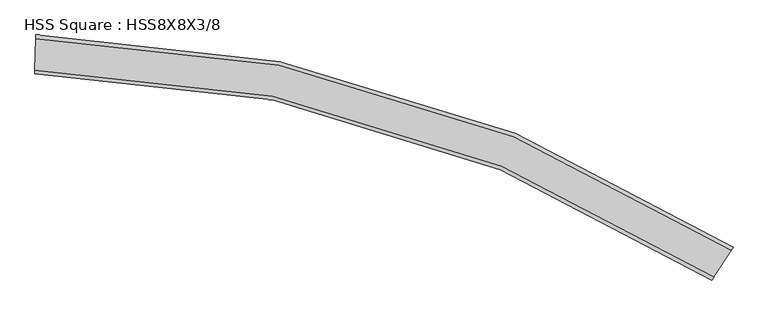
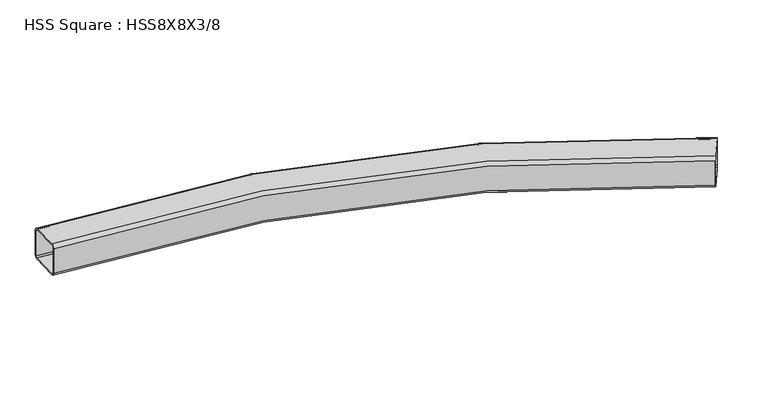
"""IFC4 building model written with IfcOpenShell, lengths in millimetres: beam geometry, HSS Square : HSS8X8X3/8."""

from ifc_helpers import new_model, si_unit, point, frame, origin, place, context, project, spatial, polyline, circle_curve, ellipse_curve, trimmed, source, transform, mapped, element, save
from ifc_brep_helpers import plane_surface, cylinder_surface, revolved_surface, advanced_brep


def hss_square_hss8x8x3_8_df46a162(model_context):
    return source(origin(), model_context, "Body", "AdvancedBrep", [
        advanced_brep(
        [(3755.6968207, -1007.7773238, 82.55), (3745.3457959, -1023.7697841, 101.6), (3655.6369146, -1162.3711066, 101.6), (3645.2858898, -1178.3635669, 82.55), (3645.2858898, -1178.3635669, -82.55), (3655.6369146, -1162.3711066, -101.6), (3745.3457959, -1023.7697841, -101.6), (3755.6968207, -1007.7773238, -82.55), (3655.6369146, -1162.3711066, 92.075), (3745.3457959, -1023.7697841, 92.075), (3750.5213083, -1015.7735539, 82.55), (3750.5213083, -1015.7735539, -82.55), (3745.3457959, -1023.7697841, -92.075), (3655.6369146, -1162.3711066, -92.075), (3650.4614022, -1170.3673368, -82.55), (3650.4614022, -1170.3673368, 82.55), (115.9920812, 100.6266812, 82.55), (115.9920812, 100.6266812, -82.55), (115.672397, 81.5793638, -101.6), (112.9018007, -83.4973875, -101.6), (112.5821165, -102.5447049, -82.55), (112.5821165, -102.5447049, 82.55), (112.9018007, -83.4973875, 101.6), (115.672397, 81.5793638, 101.6), (112.9018007, -83.4973875, 92.075), (112.7419586, -93.0210462, 82.55), (112.7419586, -93.0210462, -82.55), (112.9018007, -83.4973875, -92.075), (115.672397, 81.5793638, -92.075), (115.8322391, 91.1030225, -82.55), (115.8322391, 91.1030225, 82.55), (115.672397, 81.5793638, 92.075)],
        [
            (0, 1, circle_curve(frame((3745.3457959, -1023.7697841, 82.55), z_axis=(0.839499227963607, -0.5433608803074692, 0.0), x_axis=(-0.5433608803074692, -0.839499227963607, 0.0)), 19.05)),
            (1, 2),
            (2, 3, circle_curve(frame((3655.6369146, -1162.3711066, 82.55), z_axis=(0.8394992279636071, -0.5433608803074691, 0.0), x_axis=(-0.5433608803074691, -0.8394992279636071, 0.0)), 19.05)),
            (3, 4),
            (4, 5, circle_curve(frame((3655.6369146, -1162.3711066, -82.55), z_axis=(0.8394992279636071, -0.5433608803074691, 0.0), x_axis=(-0.5433608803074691, -0.8394992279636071, 0.0)), 19.05)),
            (5, 6),
            (6, 7, circle_curve(frame((3745.3457959, -1023.7697841, -82.55), z_axis=(0.839499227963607, -0.5433608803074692, 0.0), x_axis=(-0.5433608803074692, -0.839499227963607, 0.0)), 19.05)),
            (7, 0),
            (8, 9),
            (9, 10, circle_curve(frame((3745.3457959, -1023.7697841, 82.55), z_axis=(-0.8394992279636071, 0.5433608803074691, 0.0), x_axis=(-0.5433608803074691, -0.8394992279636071, 0.0)), 9.525)),
            (10, 11),
            (11, 12, circle_curve(frame((3745.3457959, -1023.7697841, -82.55), z_axis=(-0.8394992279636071, 0.5433608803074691, 0.0), x_axis=(-0.5433608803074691, -0.8394992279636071, 0.0)), 9.525)),
            (12, 13),
            (13, 14, circle_curve(frame((3655.6369146, -1162.3711066, -82.55), z_axis=(-0.8394992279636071, 0.5433608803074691, 0.0), x_axis=(-0.5433608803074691, -0.8394992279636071, 0.0)), 9.525)),
            (14, 15),
            (15, 8, circle_curve(frame((3655.6369146, -1162.3711066, 82.55), z_axis=(-0.8394992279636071, 0.5433608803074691, 0.0), x_axis=(-0.5433608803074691, -0.8394992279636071, 0.0)), 9.525)),
            (16, 17),
            (17, 18, circle_curve(frame((115.672397, 81.5793638, -82.55), z_axis=(-0.9998591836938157, 0.016781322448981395, 0.0), x_axis=(-0.016781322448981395, -0.9998591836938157, 0.0)), 19.05)),
            (18, 19),
            (19, 20, circle_curve(frame((112.9018007, -83.4973875, -82.55), z_axis=(-0.9998591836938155, 0.016781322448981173, 0.0), x_axis=(-0.016781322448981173, -0.9998591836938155, 0.0)), 19.05)),
            (20, 21),
            (21, 22, circle_curve(frame((112.9018007, -83.4973875, 82.55), z_axis=(-0.9998591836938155, 0.016781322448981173, 0.0), x_axis=(-0.016781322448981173, -0.9998591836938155, 0.0)), 19.05)),
            (22, 23),
            (23, 16, circle_curve(frame((115.672397, 81.5793638, 82.55), z_axis=(-0.9998591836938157, 0.016781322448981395, 0.0), x_axis=(-0.016781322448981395, -0.9998591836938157, 0.0)), 19.05)),
            (24, 25, circle_curve(frame((112.9018007, -83.4973875, 82.55), z_axis=(0.9998591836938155, -0.016781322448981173, 0.0), x_axis=(-0.016781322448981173, -0.9998591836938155, 0.0)), 9.525)),
            (25, 26),
            (26, 27, circle_curve(frame((112.9018007, -83.4973875, -82.55), z_axis=(0.9998591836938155, -0.016781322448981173, 0.0), x_axis=(-0.016781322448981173, -0.9998591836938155, 0.0)), 9.525)),
            (27, 28),
            (28, 29, circle_curve(frame((115.672397, 81.5793638, -82.55), z_axis=(0.9998591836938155, -0.016781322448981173, 0.0), x_axis=(-0.016781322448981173, -0.9998591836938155, 0.0)), 9.525)),
            (29, 30),
            (30, 31, circle_curve(frame((115.672397, 81.5793638, 82.55), z_axis=(0.9998591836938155, -0.016781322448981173, 0.0), x_axis=(-0.016781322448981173, -0.9998591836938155, 0.0)), 9.525)),
            (31, 24),
            (0, 16, circle_curve(frame((0.0, -6810.375, 82.55), z_axis=(0.0, 0.0, 1.0), x_axis=(0.7071067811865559, 0.7071067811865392, 0.0)), 6911.975)),
            (23, 1, circle_curve(frame((0.0, -6810.375, 101.6), z_axis=(0.0, 0.0, -1.0), x_axis=(0.7071067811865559, 0.7071067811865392, 0.0)), 6892.925)),
            (22, 2, circle_curve(frame((0.0, -6810.375, 101.6), z_axis=(0.0, 0.0, -1.0), x_axis=(0.7071067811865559, 0.7071067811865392, 0.0)), 6727.825)),
            (21, 3, circle_curve(frame((0.0, -6810.375, 82.55), z_axis=(0.0, 0.0, -1.0), x_axis=(0.7071067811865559, 0.7071067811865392, 0.0)), 6708.775)),
            (20, 4, circle_curve(frame((0.0, -6810.375, -82.55), z_axis=(0.0, 0.0, -1.0), x_axis=(0.7071067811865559, 0.7071067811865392, 0.0)), 6708.775)),
            (19, 5, circle_curve(frame((0.0, -6810.375, -101.6), z_axis=(0.0, 0.0, -1.0), x_axis=(0.7071067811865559, 0.7071067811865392, 0.0)), 6727.825)),
            (18, 6, circle_curve(frame((0.0, -6810.375, -101.6), z_axis=(0.0, 0.0, -1.0), x_axis=(0.7071067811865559, 0.7071067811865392, 0.0)), 6892.925)),
            (17, 7, circle_curve(frame((0.0, -6810.375, -82.55), z_axis=(0.0, 0.0, -1.0), x_axis=(0.7071067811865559, 0.7071067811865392, 0.0)), 6911.975)),
            (8, 24, circle_curve(frame((0.0, -6810.375, 92.075), z_axis=(0.0, 0.0, 1.0), x_axis=(0.7071067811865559, 0.7071067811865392, 0.0)), 6727.825)),
            (31, 9, circle_curve(frame((0.0, -6810.375, 92.075), z_axis=(0.0, 0.0, -1.0), x_axis=(0.7071067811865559, 0.7071067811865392, 0.0)), 6892.925)),
            (30, 10, circle_curve(frame((0.0, -6810.375, 82.55), z_axis=(0.0, 0.0, -1.0), x_axis=(0.7071067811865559, 0.7071067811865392, 0.0)), 6902.45)),
            (29, 11, circle_curve(frame((0.0, -6810.375, -82.55), z_axis=(0.0, 0.0, -1.0), x_axis=(0.7071067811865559, 0.7071067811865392, 0.0)), 6902.45)),
            (28, 12, circle_curve(frame((0.0, -6810.375, -92.075), z_axis=(0.0, 0.0, -1.0), x_axis=(0.7071067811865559, 0.7071067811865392, 0.0)), 6892.925)),
            (27, 13, circle_curve(frame((0.0, -6810.375, -92.075), z_axis=(0.0, 0.0, -1.0), x_axis=(0.7071067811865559, 0.7071067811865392, 0.0)), 6727.825)),
            (26, 14, circle_curve(frame((0.0, -6810.375, -82.55), z_axis=(0.0, 0.0, -1.0), x_axis=(0.7071067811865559, 0.7071067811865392, 0.0)), 6718.3)),
            (25, 15, circle_curve(frame((0.0, -6810.375, 82.55), z_axis=(0.0, 0.0, -1.0), x_axis=(0.7071067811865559, 0.7071067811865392, 0.0)), 6718.3)),
        ],
        [
            plane_surface(frame((3700.4913552, -1093.0704454, 0.0), z_axis=(0.8394992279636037, -0.5433608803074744, 0.0), x_axis=(0.0, 0.0, 1.0))),
            plane_surface(frame((114.2870989, -0.9590119, 0.0), z_axis=(-0.9998591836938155, 0.0167813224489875, 0.0), x_axis=(0.0, 0.0, 1.0))),
            revolved_surface(trimmed(ellipse_curve(frame((4874.0340097, -1936.3409903, 82.55), z_axis=(-0.7071067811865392, 0.7071067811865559, 0.0), x_axis=(-0.7071067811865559, -0.7071067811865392, 0.0)), 19.05, 19.05), [point((4874.0340097, -1936.3409903, 101.6))], [point((4887.5043939, -1922.8706061, 82.55))], True, "CARTESIAN"), (0.0, -6810.375, 0.0), (0.0, 0.0, -1.0000000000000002)),
            plane_surface(frame((0.0, -6810.375, 101.6), z_axis=(0.0, 0.0, 1.0000000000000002), x_axis=(0.7071067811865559, 0.7071067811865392, 0.0))),
            revolved_surface(trimmed(ellipse_curve(frame((4757.2906801, -2053.0843199, 82.55), z_axis=(-0.7071067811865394, 0.7071067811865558, 0.0), x_axis=(-0.7071067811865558, -0.7071067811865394, 0.0)), 19.05, 19.05), [point((4743.820296, -2066.554704, 82.55))], [point((4757.2906801, -2053.0843199, 101.6))], True, "CARTESIAN"), (0.0, -6810.375, 0.0), (0.0, 0.0, -1.0000000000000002)),
            revolved_surface(polyline([(4743.820295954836, -2066.5547040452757, -82.55000000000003), (4743.820295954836, -2066.5547040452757, 82.55000000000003)]), (0.0, -6810.375, 0.0), (0.0, 0.0, -1.0000000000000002)),
            revolved_surface(trimmed(ellipse_curve(frame((4757.2906801, -2053.0843199, -82.55), z_axis=(-0.7071067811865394, 0.7071067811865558, 0.0), x_axis=(-0.7071067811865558, -0.7071067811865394, 0.0)), 19.05, 19.05), [point((4757.2906801, -2053.0843199, -101.6))], [point((4743.820296, -2066.554704, -82.55))], True, "CARTESIAN"), (0.0, -6810.375, 0.0), (0.0, 0.0, -1.0000000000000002)),
            plane_surface(frame((0.0, -6810.375, -101.6), z_axis=(0.0, 0.0, -1.0000000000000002), x_axis=(0.7071067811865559, 0.7071067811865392, 0.0))),
            revolved_surface(trimmed(ellipse_curve(frame((4874.0340097, -1936.3409903, -82.55), z_axis=(-0.7071067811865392, 0.7071067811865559, 0.0), x_axis=(-0.7071067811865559, -0.7071067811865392, 0.0)), 19.05, 19.05), [point((4887.5043939, -1922.8706061, -82.55))], [point((4874.0340097, -1936.3409903, -101.6))], True, "CARTESIAN"), (0.0, -6810.375, 0.0), (0.0, 0.0, -1.0000000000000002)),
            cylinder_surface(frame((0.0, -6810.375, 0.0), z_axis=(0.0, 0.0, -1.0000000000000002), x_axis=(0.7071067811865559, 0.7071067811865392, 0.0)), 6911.975),
            plane_surface(frame((0.0, -6810.375, 92.075), z_axis=(0.0, 0.0, -1.0000000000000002), x_axis=(0.7071067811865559, 0.7071067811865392, 0.0))),
            revolved_surface(trimmed(ellipse_curve(frame((4874.0340097, -1936.3409903, 82.55), z_axis=(0.7071067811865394, -0.7071067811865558, 0.0), x_axis=(-0.7071067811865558, -0.7071067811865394, 0.0)), 9.525, 9.525), [point((4880.7692018, -1929.6057982, 82.55))], [point((4874.0340097, -1936.3409903, 92.075))], True, "CARTESIAN"), (0.0, -6810.375, 0.0), (0.0, 0.0, -1.0000000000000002)),
            revolved_surface(polyline([(4880.769201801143, -1929.6057981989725, -82.55000000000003), (4880.769201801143, -1929.6057981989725, 82.55000000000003)]), (0.0, -6810.375, 0.0), (0.0, 0.0, -1.0000000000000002)),
            revolved_surface(trimmed(ellipse_curve(frame((4874.0340097, -1936.3409903, -82.55), z_axis=(0.7071067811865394, -0.7071067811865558, 0.0), x_axis=(-0.7071067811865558, -0.7071067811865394, 0.0)), 9.525, 9.525), [point((4874.0340097, -1936.3409903, -92.075))], [point((4880.7692018, -1929.6057982, -82.55))], True, "CARTESIAN"), (0.0, -6810.375, 0.0), (0.0, 0.0, -1.0000000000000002)),
            plane_surface(frame((0.0, -6810.375, -92.075), z_axis=(0.0, 0.0, 1.0000000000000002), x_axis=(0.7071067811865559, 0.7071067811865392, 0.0))),
            revolved_surface(trimmed(ellipse_curve(frame((4757.2906801, -2053.0843199, -82.55), z_axis=(0.7071067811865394, -0.7071067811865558, 0.0), x_axis=(-0.7071067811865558, -0.7071067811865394, 0.0)), 9.525, 9.525), [point((4750.555488, -2059.819512, -82.55))], [point((4757.2906801, -2053.0843199, -92.075))], True, "CARTESIAN"), (0.0, -6810.375, 0.0), (0.0, 0.0, -1.0000000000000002)),
            cylinder_surface(frame((0.0, -6810.375, 0.0), z_axis=(0.0, 0.0, -1.0000000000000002), x_axis=(0.7071067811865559, 0.7071067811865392, 0.0)), 6718.3),
            revolved_surface(trimmed(ellipse_curve(frame((4757.2906801, -2053.0843199, 82.55), z_axis=(0.7071067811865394, -0.7071067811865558, 0.0), x_axis=(-0.7071067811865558, -0.7071067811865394, 0.0)), 9.525, 9.525), [point((4757.2906801, -2053.0843199, 92.075))], [point((4750.555488, -2059.819512, 82.55))], True, "CARTESIAN"), (0.0, -6810.375, 0.0), (0.0, 0.0, -1.0000000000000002)),
        ],
        [
            (0, [[1, 2, 3, 4, 5, 6, 7, 8], [9, 10, 11, 12, 13, 14, 15, 16]]),
            (1, [[17, 18, 19, 20, 21, 22, 23, 24], [25, 26, 27, 28, 29, 30, 31, 32]]),
            (2, [[-1, 33, -24, 34]]),
            (3, [[-2, -34, -23, 35]]),
            (4, [[-3, -35, -22, 36]]),
            (5, [[-4, -36, -21, 37]]),
            (6, [[-5, -37, -20, 38]]),
            (7, [[-6, -38, -19, 39]]),
            (8, [[-7, -39, -18, 40]]),
            (9, [[-8, -40, -17, -33]]),
            (10, [[-9, 41, -32, 42]]),
            (11, [[-10, -42, -31, 43]]),
            (12, [[-11, -43, -30, 44]]),
            (13, [[-12, -44, -29, 45]]),
            (14, [[-13, -45, -28, 46]]),
            (15, [[-14, -46, -27, 47]]),
            (16, [[-15, -47, -26, 48]]),
            (17, [[-16, -48, -25, -41]]),
        ],
    ),
    ])


if __name__ == "__main__":
    model = new_model("IFC4")
    model_context = context("Model", 3, world=origin())
    ifc_project = project(units=[si_unit("LENGTHUNIT", "METRE", prefix="MILLI")], contexts=[model_context])
    site = spatial("IfcSite", under=ifc_project)
    building = spatial("IfcBuilding", under=site)
    placement = place(None, origin())
    hss_square_hss8x8x3_8_shape = hss_square_hss8x8x3_8_df46a162(model_context)
    element("IfcBeam", 1, ObjectType="HSS Square : HSS8X8X3/8", at=placement, inside=building, context=model_context, shape_type="MappedRepresentation", body=[
        mapped(hss_square_hss8x8x3_8_shape, transform((0.0, 0.0, 0.0), x_axis=(1.0, 0.0, 0.0), y_axis=(0.0, 1.0, 0.0), z_axis=(0.0, 0.0, 1.0))),
    ])
    save(model, "model.ifc")
